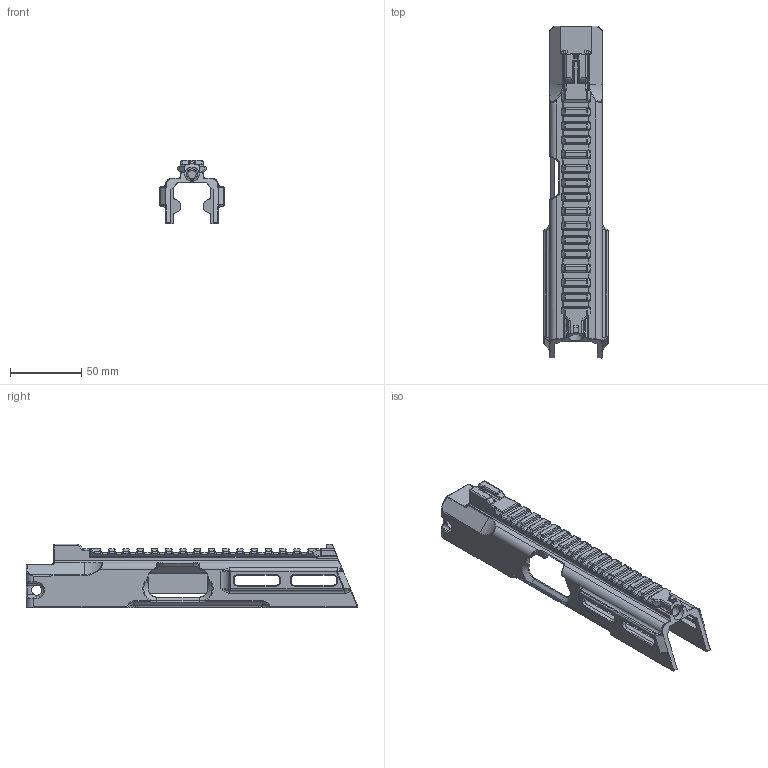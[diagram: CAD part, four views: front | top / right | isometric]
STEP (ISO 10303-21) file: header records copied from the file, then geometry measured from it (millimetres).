
FILE_DESCRIPTION(/* description */ ('STEP AP214','CAx-IF Rec.Pracs.---User Defined Attributes---1.5---2016-08-15'),/* implementation_level */ '2;1');
FILE_NAME(/* name */ '6a9b0e460a6c98029f8dde4b',/* time_stamp */ '2026-09-04T18:30:31Z',/* author */ (''),/* organization */ (''),/* preprocessor_version */ 'ST-DEVELOPER v20',/* originating_system */ 'ONSHAPE BY PTC INC, 1.220',/* authorisation */ ' ');
FILE_SCHEMA (('AUTOMOTIVE_DESIGN {1 0 10303 214 3 1 1}'));
Length unit declared in the file: metre
Products named in the file (1): NEO9 Upper Cowl
Bounding box: 45 x 232.96 x 44.42 mm (x, y, z)
Volume: 78998.3 mm3; surface area: 49084.6 mm2
Topology: 1 solids, 1 shells, 1122 faces, 2718 edges, 1480 vertices
Faces by surface type: cylinder 409, bspline 275, plane 229, torus 103, sphere 80, cone 26
Full cylindrical faces by diameter (mm): 1.75 x3, 5.907 x1, 7.277 x2, 7.7 x1, 10 x1
Entity records: 35974 total; most frequent: CARTESIAN_POINT 11503, DIRECTION 5227, ORIENTED_EDGE 5180, EDGE_CURVE 2590, AXIS2_PLACEMENT_3D 2131, VERTEX_POINT 1476, EDGE_LOOP 1146, FACE_BOUND 1146
